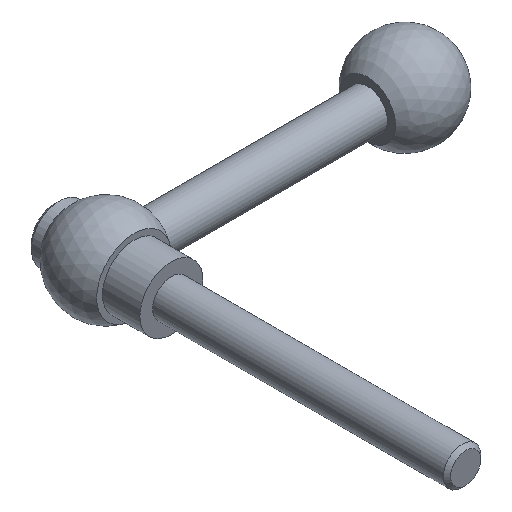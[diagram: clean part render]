
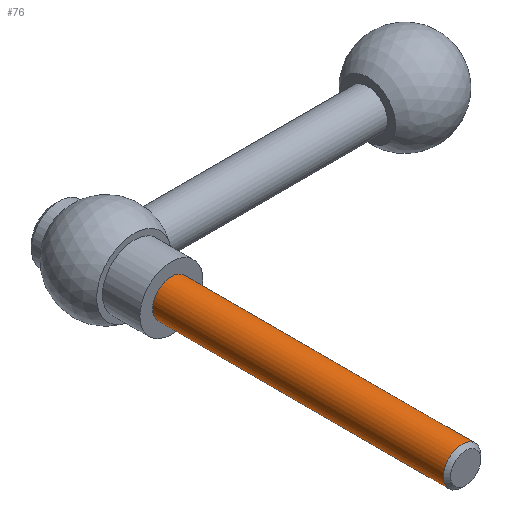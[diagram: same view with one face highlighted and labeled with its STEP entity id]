
A CAD part, isometric view. The second image highlights one B-rep face of the part: STEP entity #76.
In plain terms, the highlighted cylindrical face has radius 4 mm (diameter 8 mm), a full revolution.
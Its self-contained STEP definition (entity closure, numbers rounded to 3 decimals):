
#76 = ADVANCED_FACE( '', ( #92, #93 ), #94, .T. );
#92 = FACE_OUTER_BOUND( '', #130, .T. );
#93 = FACE_OUTER_BOUND( '', #131, .T. );
#94 = CYLINDRICAL_SURFACE( '', #132, 4. );
#130 = EDGE_LOOP( '', ( #170 ) );
#131 = EDGE_LOOP( '', ( #171 ) );
#132 = AXIS2_PLACEMENT_3D( '', #172, #173, #174 );
#170 = ORIENTED_EDGE( '', *, *, #230, .F. );
#171 = ORIENTED_EDGE( '', *, *, #231, .T. );
#172 = CARTESIAN_POINT( '', ( 0., -63., 0. ) );
#173 = DIRECTION( '', ( 0., 1., 0. ) );
#174 = DIRECTION( '', ( 0., 0., -1. ) );
#230 = EDGE_CURVE( '', #244, #244, #245, .T. );
#231 = EDGE_CURVE( '', #246, #246, #247, .T. );
#244 = VERTEX_POINT( '', #268 );
#245 = CIRCLE( '', #269, 4. );
#246 = VERTEX_POINT( '', #270 );
#247 = CIRCLE( '', #271, 4. );
#268 = CARTESIAN_POINT( '', ( 0., -62.233, -4. ) );
#269 = AXIS2_PLACEMENT_3D( '', #293, #294, #295 );
#270 = CARTESIAN_POINT( '', ( 0., 0., -4. ) );
#271 = AXIS2_PLACEMENT_3D( '', #296, #297, #298 );
#293 = CARTESIAN_POINT( '', ( 0., -62.233, 0. ) );
#294 = DIRECTION( '', ( 0., -1., 0. ) );
#295 = DIRECTION( '', ( 0., 0., -1. ) );
#296 = CARTESIAN_POINT( '', ( 0., 0., 0. ) );
#297 = DIRECTION( '', ( 0., -1., 0. ) );
#298 = DIRECTION( '', ( 0., 0., -1. ) );
